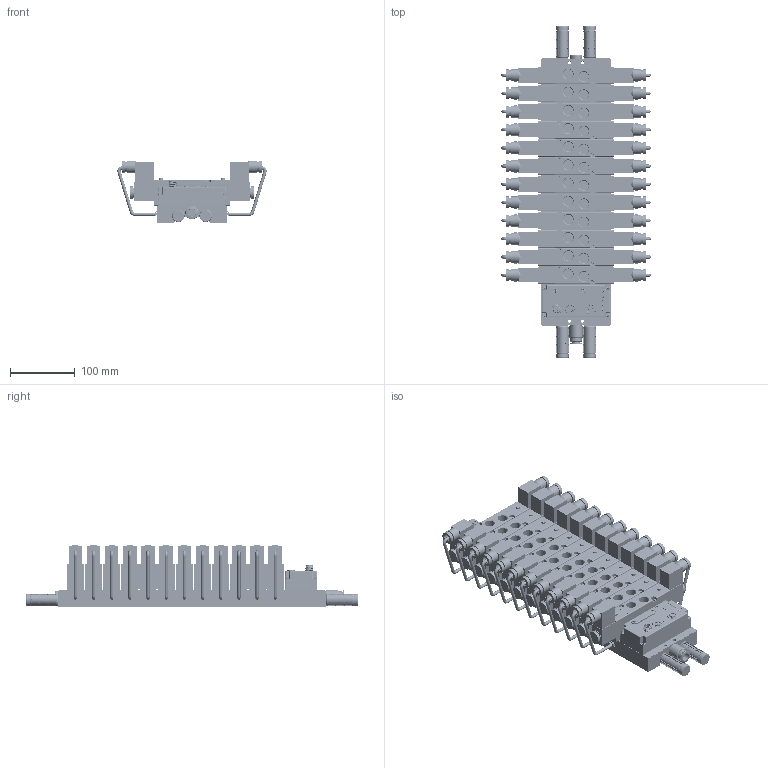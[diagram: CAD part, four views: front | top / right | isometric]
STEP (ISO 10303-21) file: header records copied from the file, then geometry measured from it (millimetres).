
FILE_DESCRIPTION (( 'STEP AP203' ), '1' );
FILE_NAME ('FV-A43-B5212-S12-MPL.STEP', '2024-08-31T04:53:50', ( 'L' ), ( '' ), 'SwSTEP 2.0', 'SolidWorks 2019', '' );
FILE_SCHEMA (( 'CONFIG_CONTROL_DESIGN' ));
Length unit declared in the file: millimetre
Products named in the file (7): FV-MPL.step; QS-G1_4-12-I.stp; FV-A43-B5212-S12-MPL; A43B52.step; 12P.step; U-1_4-50.prt; B-1_4.stp
Assembly tree (20 placements, depth 2):
  FV-A43-B5212-S12-MPL
    B-1_4.stp
    QS-G1_4-12-I.stp
    FV-MPL.step
    12P.step
    U-1_4-50.prt  x4
    A43B52.step  x12
Bounding box: 230.29 x 511.5 x 96.5 mm (x, y, z)
Volume: 3565719.9 mm3; surface area: 816792.4 mm2
Topology: 80 solids, 123 shells, 10625 faces, 27144 edges, 17611 vertices
Faces by surface type: plane 6063, cylinder 3054, torus 593, cone 425, bspline 403, sphere 87
Entity records: 164926 total; most frequent: CARTESIAN_POINT 58575, ORIENTED_EDGE 22432, DIRECTION 20850, EDGE_CURVE 11216, VERTEX_POINT 7249, AXIS2_PLACEMENT_3D 7169, LINE 6512, VECTOR 6512
